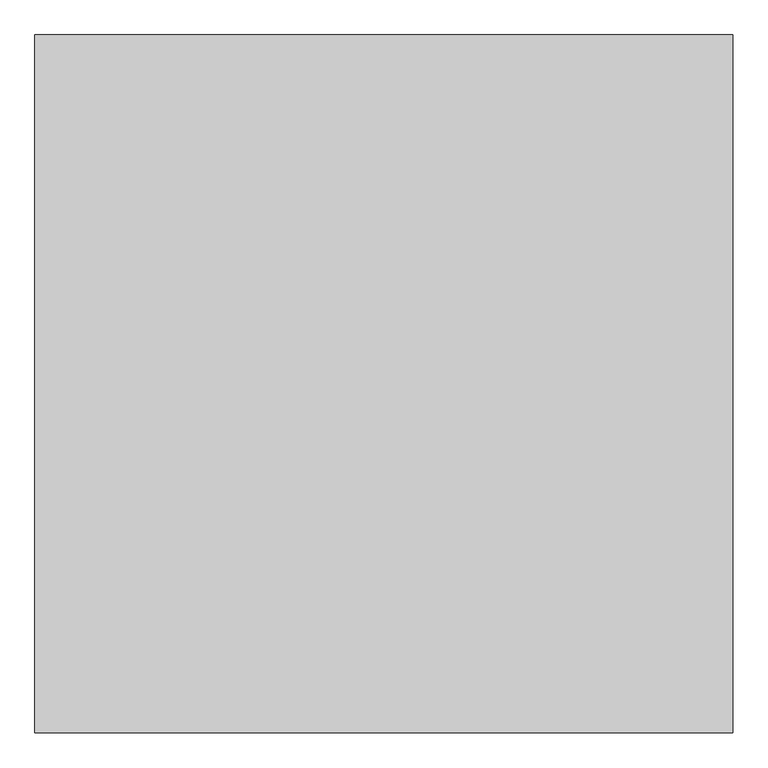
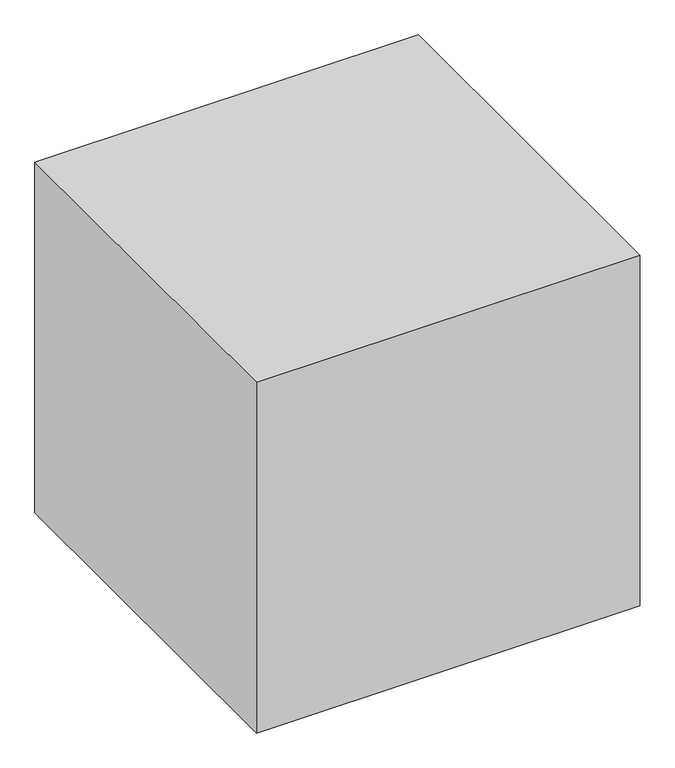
"""IFC4 building model written with IfcOpenShell, lengths in millimetres: proxy geometry, サービススペース(衛生) : サービススペース(衛生)."""

from ifc_helpers import new_model, si_unit, frame, origin, place, context, project, spatial, polyline, outline, extrude, source, transform, mapped, element, save


def specialty_equipment_e08e03be(model_context):
    return source(origin(), model_context, "Body", "SweptSolid", [
        extrude(outline(polyline([(1500.0, 1500.0), (1500.0, -1500.0), (-1500.0, -1500.0), (-1500.0, 1500.0), (1500.0, 1500.0)])), frame((0.0, 0.0, -1450.0), z_axis=(0.0, 0.0, 1.0), x_axis=(1.0, 0.0, 0.0)), (0.0, 0.0, 1.0), 2900.0),
    ])


if __name__ == "__main__":
    model = new_model("IFC4")
    model_context = context("Model", 3, world=origin())
    ifc_project = project(units=[si_unit("LENGTHUNIT", "METRE", prefix="MILLI")], contexts=[model_context])
    site = spatial("IfcSite", under=ifc_project)
    building = spatial("IfcBuilding", under=site)
    placement = place(None, origin())
    specialty_equipment_shape = specialty_equipment_e08e03be(model_context)
    element("IfcBuildingElementProxy", 1, Name="サービススペース(衛生) : サービススペース(衛生)", ObjectType="サービススペース(衛生) : サービススペース(衛生)", at=placement, inside=building, context=model_context, shape_type="MappedRepresentation", body=[
        mapped(specialty_equipment_shape, transform((0.0, 0.0, 0.0), x_axis=(1.0, 0.0, 0.0), y_axis=(0.0, 1.0, 0.0), z_axis=(0.0, 0.0, 1.0))),
    ])
    save(model, "model.ifc")
